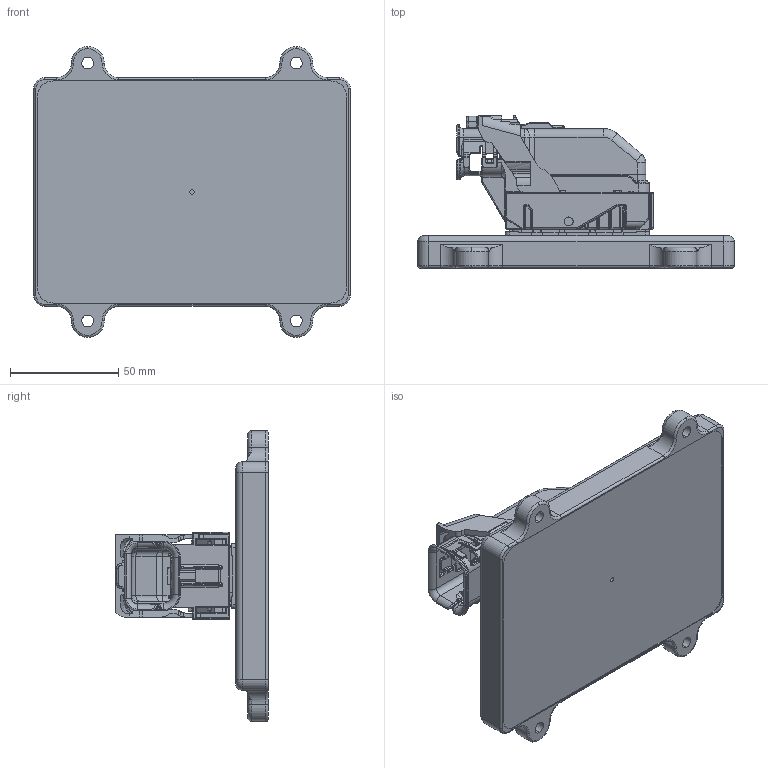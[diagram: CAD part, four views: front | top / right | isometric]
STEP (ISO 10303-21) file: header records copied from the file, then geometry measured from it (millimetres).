
FILE_DESCRIPTION (( 'STEP AP214' ), '1' );
FILE_NAME ('Case assy CVM.STEP', '2018-04-11T19:54:50', ( '' ), ( '' ), 'SwSTEP 2.0', 'SolidWorks 2018', '' );
FILE_SCHEMA (( 'AUTOMOTIVE_DESIGN' ));
Length unit declared in the file: millimetre
Products named in the file (4): 345662003; Case CVM; 345650003; Case assy CVM
Assembly tree (3 placements, depth 2):
  Case assy CVM
    Case CVM
    345662003
    345650003
Bounding box: 146.49 x 70.48 x 134.6 mm (x, y, z)
Volume: 334892.7 mm3; surface area: 88435.9 mm2
Topology: 4 solids, 5 shells, 7363 faces, 18820 edges, 11617 vertices
Faces by surface type: plane 4036, cylinder 1857, cone 712, torus 421, bspline 282, sphere 55
Entity records: 262313 total; most frequent: CARTESIAN_POINT 80258, ORIENTED_EDGE 37566, DIRECTION 35661, EDGE_CURVE 18783, VECTOR 12677, LINE 12677, VERTEX_POINT 11615, AXIS2_PLACEMENT_3D 11492
